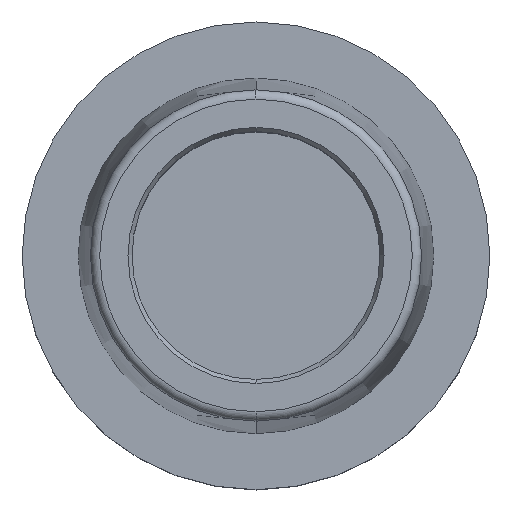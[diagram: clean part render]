
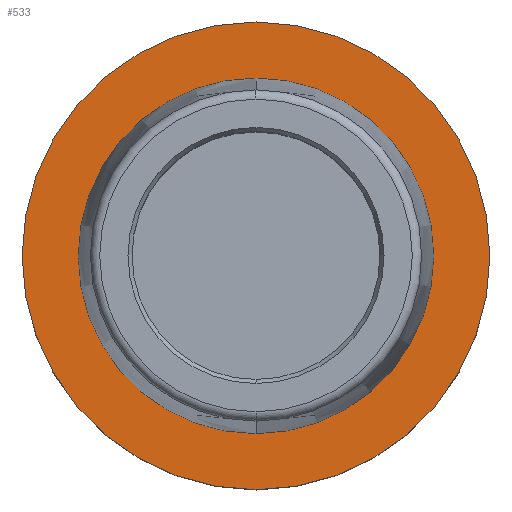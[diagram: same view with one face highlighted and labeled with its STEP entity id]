
A CAD part, top view. The second image highlights one B-rep face of the part: STEP entity #533.
In plain terms, the highlighted planar face has unit normal (0, 0, 1).
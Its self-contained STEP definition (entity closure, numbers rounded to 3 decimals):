
#437=VERTEX_POINT('',#1107);
#461=EDGE_CURVE('',#769,#437,#1132,.T.);
#483=EDGE_CURVE('',#667,#489,#1157,.T.);
#489=VERTEX_POINT('',#1163);
#533=ADVANCED_FACE('',(#1210,#1211),#1212,.T.);
#667=VERTEX_POINT('',#1367);
#687=EDGE_CURVE('',#489,#667,#1389,.T.);
#723=EDGE_CURVE('',#437,#769,#1428,.T.);
#769=VERTEX_POINT('',#1477);
#1107=CARTESIAN_POINT('',(0.0,50.0,0.0));
#1132=CIRCLE('',#1901,50.0);
#1157=CIRCLE('',#1998,38.007);
#1163=CARTESIAN_POINT('',(0.0,38.007,0.0));
#1210=FACE_OUTER_BOUND('',#2079,.T.);
#1211=FACE_BOUND('',#2080,.T.);
#1212=PLANE('',#2081);
#1367=CARTESIAN_POINT('',(0.,-38.007,0.0));
#1389=CIRCLE('',#2346,38.007);
#1428=CIRCLE('',#2399,50.0);
#1477=CARTESIAN_POINT('',(0.,-50.0,0.0));
#1901=AXIS2_PLACEMENT_3D('',#3086,#3087,#3088);
#1998=AXIS2_PLACEMENT_3D('',#3118,#3119,#3120);
#2079=EDGE_LOOP('',(#3168,#3169));
#2080=EDGE_LOOP('',(#3170,#3171));
#2081=AXIS2_PLACEMENT_3D('',#3172,#3173,#3174);
#2346=AXIS2_PLACEMENT_3D('',#3432,#3433,#3434);
#2399=AXIS2_PLACEMENT_3D('',#3483,#3484,#3485);
#3086=CARTESIAN_POINT('',(0.0,0.0,0.0));
#3087=DIRECTION('',(0.0,0.0,-1.0));
#3088=DIRECTION('',(0.0,1.0,0.0));
#3118=CARTESIAN_POINT('',(0.0,0.0,0.0));
#3119=DIRECTION('',(0.0,0.0,-1.0));
#3120=DIRECTION('',(0.0,1.0,0.0));
#3168=ORIENTED_EDGE('',*,*,#723,.F.);
#3169=ORIENTED_EDGE('',*,*,#461,.F.);
#3170=ORIENTED_EDGE('',*,*,#687,.T.);
#3171=ORIENTED_EDGE('',*,*,#483,.T.);
#3172=CARTESIAN_POINT('',(0.0,44.004,0.0));
#3173=DIRECTION('',(-0.0,0.0,1.0));
#3174=DIRECTION('',(0.0,-1.0,0.0));
#3432=CARTESIAN_POINT('',(0.0,0.0,0.0));
#3433=DIRECTION('',(0.0,0.0,-1.0));
#3434=DIRECTION('',(0.0,1.0,0.0));
#3483=CARTESIAN_POINT('',(0.0,0.0,0.0));
#3484=DIRECTION('',(0.0,0.0,-1.0));
#3485=DIRECTION('',(0.0,1.0,0.0));
